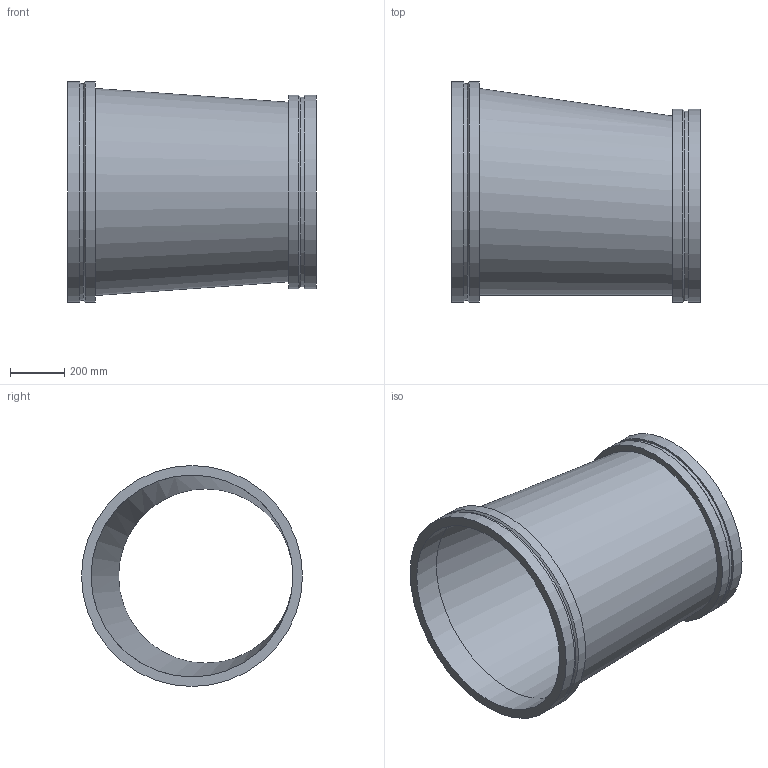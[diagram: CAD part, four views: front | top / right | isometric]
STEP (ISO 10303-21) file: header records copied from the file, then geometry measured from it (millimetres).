
FILE_DESCRIPTION(/* description */ ('VIC REDUCER ECCENTRIC No W51-VR','CAx-IF Rec.Pracs.---Representation and Presentation of Product Manufacturing Information (PMI)---4.0---2014-10-13'),/* implementation_level */ '2;1');
FILE_NAME(/* name */ 'C:\Users\kkamble\AppData\Roaming\Autodesk\ApplicationPlugins\Back Up\Victaulic_Vic-Ring_Reducer Eccentric_No W51 VR (AGR)\Victaulic_Vic-Ring_Reducer Eccentric_No W51 VR (AGR)_30.0x26.0 (750x650).stp',/* time_stamp */ '2020-09-10T11:50:09+05:00',/* author */ ('CONSTRUCTION PIPING SERVICES'),/* organization */ ('Victaulic'),/* preprocessor_version */ 'ST-DEVELOPER v17.2',/* originating_system */ 'Autodesk Inventor 2019',/* authorisation */ '');
FILE_SCHEMA (('AP242_MANAGED_MODEL_BASED_3D_ENGINEERING_MIM_LF { 1 0 10303 442 1 1 4 }'));
Length unit declared in the file: inch
Products named in the file (1): W51 VR-30.0x26.0
Bounding box: 914.4 x 812.8 x 812.8 mm (x, y, z)
Volume: 30602381.9 mm3; surface area: 4401739.9 mm2
Topology: 1 solids, 1 shells, 18 faces, 49 edges, 37 vertices
Faces by surface type: cylinder 8, plane 6, cone 2, bspline 2
Full cylindrical faces by diameter (mm): 641.35 x1, 696.722 x1, 711.2 x2, 742.95 x1, 798.322 x1, 812.8 x2
Entity records: 792 total; most frequent: CARTESIAN_POINT 158, DIRECTION 144, ORIENTED_EDGE 98, AXIS2_PLACEMENT_3D 67, EDGE_CURVE 49, CIRCLE 37, VERTEX_POINT 37, EDGE_LOOP 24
